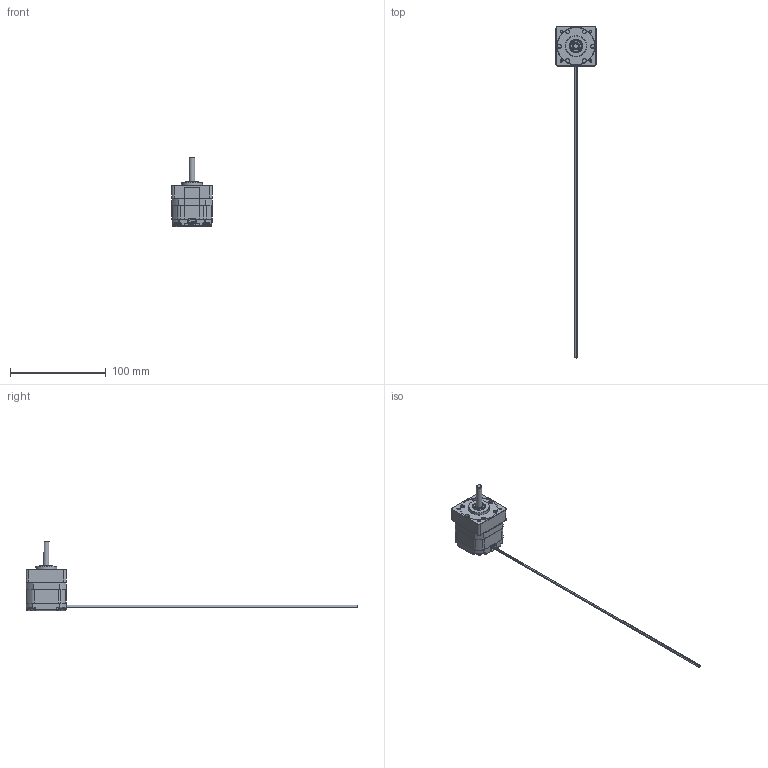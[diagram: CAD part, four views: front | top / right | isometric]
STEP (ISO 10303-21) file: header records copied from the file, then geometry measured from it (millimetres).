
FILE_DESCRIPTION(/* description */ ('','CAx-IF Rec.Pracs.---Representation and Presentation of Product Manufacturing Information (PMI)---3.8---2014-02-18'),/* implementation_level */ '2;1');
FILE_NAME(/* name */ 'C:\Users\hpham\Desktop\2018 Project\3D Models-Web\3D Models - 4418 Series\4418X\4418X-XX+069-094.stp',/* time_stamp */ '2018-04-06T09:40:35-07:00',/* author */ ('hpham'),/* organization */ (''),/* preprocessor_version */ 'ST-DEVELOPER v16.1',/* originating_system */ 'Autodesk Inventor 2016',/* authorisation */ '');
FILE_SCHEMA (('AP242_MANAGED_MODEL_BASED_3D_ENGINEERING_MIM_LF { 1 0 10303 442 1 1 4 }'));
Length unit declared in the file: inch
Products named in the file (1): 4418X-XX+069-094
Bounding box: 42.16 x 347.45 x 72.43 mm (x, y, z)
Volume: 20854 mm3; surface area: 27279.3 mm2
Topology: 7 solids, 7 shells, 605 faces, 1503 edges, 916 vertices
Faces by surface type: plane 264, cylinder 177, torus 70, cone 48, bspline 28, sphere 18
Full cylindrical faces by diameter (mm): 0.965 x4, 1.194 x1, 2.21 x8, 2.464 x6, 2.845 x2, 2.997 x2, 3.302 x6, 3.404 x4, 4 x6, 4.991 x1, 5.001 x1, 5.5 x2, 5.563 x2, 5.997 x1, 6 x1, 7.6 x1, 7.811 x1, 7.823 x1, 7.864 x3, 8 x1, 8.141 x1, 8.2 x1, 11 x1, 11.136 x3, 12.103 x1, 13 x1, 13.208 x1, 15.999 x1, 17.297 x1, 22 x1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
Entity records: 18217 total; most frequent: CARTESIAN_POINT 4192, DIRECTION 2883, ORIENTED_EDGE 2646, EDGE_CURVE 1323, AXIS2_PLACEMENT_3D 1169, VERTEX_POINT 853, EDGE_LOOP 776, ADVANCED_FACE 605
